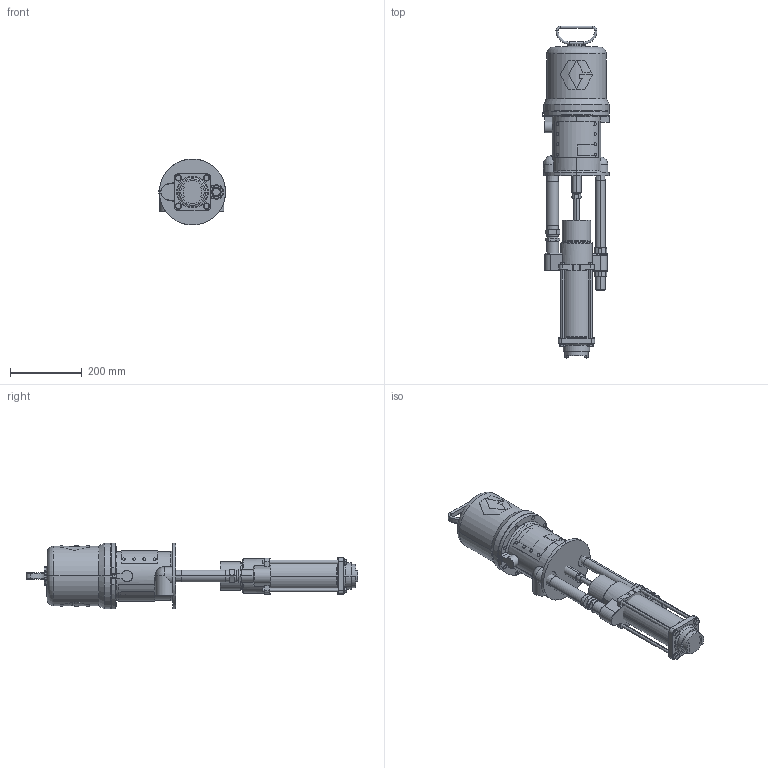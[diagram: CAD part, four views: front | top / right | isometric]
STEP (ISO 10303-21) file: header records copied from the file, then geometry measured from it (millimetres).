
FILE_DESCRIPTION((''),'2;1');
FILE_NAME('223184-EN-R_PRT','2022-02-14T11:18:07',('qtmwp1'),(''),'CREO PARAMETRIC BY PTC INC, 2021072','CREO PARAMETRIC BY PTC INC, 2021072','');
FILE_SCHEMA(('CONFIG_CONTROL_DESIGN'));
Length unit declared in the file: inch
Products named in the file (1): 223184-EN-R_PRT
Bounding box: 186.82 x 926.33 x 184.15 mm (x, y, z)
Surface area: 643044 mm2 (no closed solid volume)
Topology: 0 solids, 71 shells, 489 faces, 1418 edges, 965 vertices
Faces by surface type: plane 206, cylinder 139, cone 118, torus 22, sphere 2, bspline 2
Entity records: 17157 total; most frequent: CARTESIAN_POINT 4999, DIRECTION 2507, ORIENTED_EDGE 2268, EDGE_CURVE 1416, AXIS2_PLACEMENT_3D 968, VERTEX_POINT 965, VECTOR 571, LINE 571
